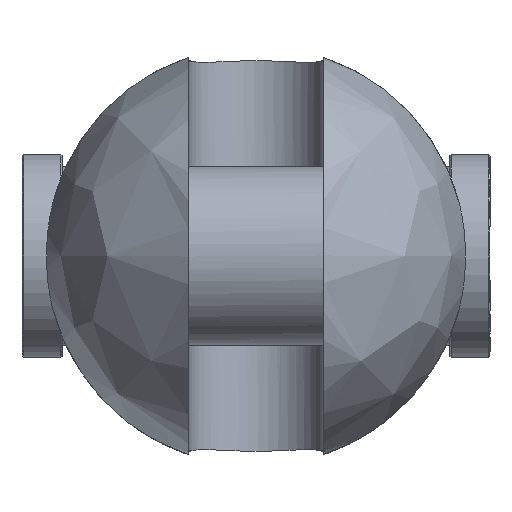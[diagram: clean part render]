
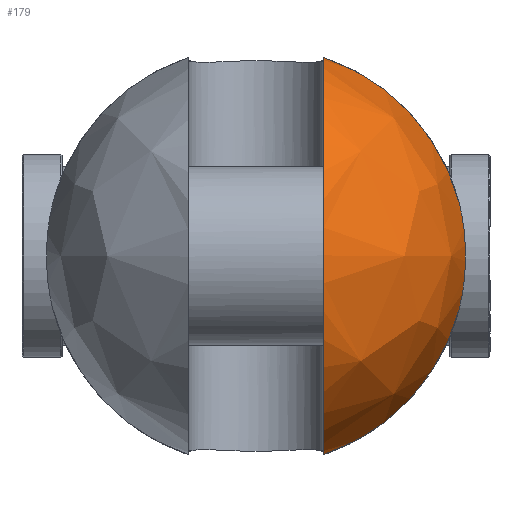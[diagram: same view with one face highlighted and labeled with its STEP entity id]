
A CAD part, left-side view. The second image highlights one B-rep face of the part: STEP entity #179.
In plain terms, the highlighted free-form (B-spline) face has degree [2, 2] with [9, 5] control points.
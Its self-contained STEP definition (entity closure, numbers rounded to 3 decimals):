
#179=ADVANCED_FACE('',(#320),#2412,.T.);
#320=FACE_OUTER_BOUND('',#481,.T.);
#481=EDGE_LOOP('',(#1192,#1193,#1194,#1195));
#1192=ORIENTED_EDGE('',*,*,#1572,.T.);
#1193=ORIENTED_EDGE('',*,*,#1600,.F.);
#1194=ORIENTED_EDGE('',*,*,#1612,.T.);
#1195=ORIENTED_EDGE('',*,*,#1592,.F.);
#1572=EDGE_CURVE('',#2244,#2243,#1979,.T.);
#1592=EDGE_CURVE('',#2244,#2256,#1989,.T.);
#1600=EDGE_CURVE('',#2263,#2243,#1990,.T.);
#1612=EDGE_CURVE('',#2263,#2256,#1786,.T.);
#1786=B_SPLINE_CURVE_WITH_KNOTS('',3,(#6118,#6119,#6120,#6121,#6122,#6123,
#6124,#6125,#6126,#6127,#6128,#6129,#6130,#6131),.UNSPECIFIED.,.F.,.F.,
(4,2,2,2,2,2,4),(0.,4.71,11.288,17.866,
24.445,31.023,35.733),.UNSPECIFIED.);
#1979=(
BOUNDED_CURVE()
B_SPLINE_CURVE(2,(#5862,#5863,#5864,#5865,#5866),.UNSPECIFIED.,.F.,.F.)
B_SPLINE_CURVE_WITH_KNOTS((3,2,3),(-202.139,-101.069,0.),
 .UNSPECIFIED.)
CURVE()
GEOMETRIC_REPRESENTATION_ITEM()
RATIONAL_B_SPLINE_CURVE((1.,0.707,1.,0.707,1.))
REPRESENTATION_ITEM('')
);
#1989=(
BOUNDED_CURVE()
B_SPLINE_CURVE(2,(#5988,#5989,#5990),.UNSPECIFIED.,.F.,.F.)
B_SPLINE_CURVE_WITH_KNOTS((3,3),(0.,67.328),.UNSPECIFIED.)
CURVE()
GEOMETRIC_REPRESENTATION_ITEM()
RATIONAL_B_SPLINE_CURVE((1.,0.88,1.))
REPRESENTATION_ITEM('')
);
#1990=(
BOUNDED_CURVE()
B_SPLINE_CURVE(2,(#6045,#6046,#6047),.UNSPECIFIED.,.F.,.F.)
B_SPLINE_CURVE_WITH_KNOTS((3,3),(0.,67.328),.UNSPECIFIED.)
CURVE()
GEOMETRIC_REPRESENTATION_ITEM()
RATIONAL_B_SPLINE_CURVE((1.,0.88,1.))
REPRESENTATION_ITEM('')
);
#2243=VERTEX_POINT('',#5746);
#2244=VERTEX_POINT('',#5747);
#2256=VERTEX_POINT('',#5759);
#2263=VERTEX_POINT('',#5766);
#2412=(
BOUNDED_SURFACE()
B_SPLINE_SURFACE(2,2,((#5460,#5461,#5462,#5463,#5464),(#5465,#5466,#5467,
#5468,#5469),(#5470,#5471,#5472,#5473,#5474),(#5475,#5476,#5477,#5478,#5479),
(#5480,#5481,#5482,#5483,#5484),(#5485,#5486,#5487,#5488,#5489),(#5490,
#5491,#5492,#5493,#5494),(#5495,#5496,#5497,#5498,#5499),(#5500,#5501,#5502,
#5503,#5504)),.UNSPECIFIED.,.T.,.F.,.F.)
B_SPLINE_SURFACE_WITH_KNOTS((3,2,2,2,3),(3,2,3),(0.,106.814,213.628,
320.442,427.257),(0.,106.814,213.628),
 .UNSPECIFIED.)
GEOMETRIC_REPRESENTATION_ITEM()
RATIONAL_B_SPLINE_SURFACE(((1.,0.707,1.,0.707,1.),
(0.707,0.5,0.707,0.5,0.707),(1.,0.707,
1.,0.707,1.),(0.707,0.5,0.707,0.5,0.707),
(1.,0.707,1.,0.707,1.),(0.707,0.5,0.707,
0.5,0.707),(1.,0.707,1.,0.707,1.),(0.707,
0.5,0.707,0.5,0.707),(1.,0.707,1.,0.707,
1.)))
REPRESENTATION_ITEM('')
SURFACE()
);
#5460=CARTESIAN_POINT('',(-97.5,0.,0.));
#5461=CARTESIAN_POINT('',(-97.5,68.,0.));
#5462=CARTESIAN_POINT('',(-29.5,68.,0.));
#5463=CARTESIAN_POINT('',(38.5,68.,0.));
#5464=CARTESIAN_POINT('',(38.5,0.,0.));
#5465=CARTESIAN_POINT('',(-97.5,0.,0.));
#5466=CARTESIAN_POINT('',(-97.5,68.,68.));
#5467=CARTESIAN_POINT('',(-29.5,68.,68.));
#5468=CARTESIAN_POINT('',(38.5,68.,68.));
#5469=CARTESIAN_POINT('',(38.5,0.,0.));
#5470=CARTESIAN_POINT('',(-97.5,0.,0.));
#5471=CARTESIAN_POINT('',(-97.5,0.,68.));
#5472=CARTESIAN_POINT('',(-29.5,0.,68.));
#5473=CARTESIAN_POINT('',(38.5,0.,68.));
#5474=CARTESIAN_POINT('',(38.5,0.,0.));
#5475=CARTESIAN_POINT('',(-97.5,0.,0.));
#5476=CARTESIAN_POINT('',(-97.5,-68.,68.));
#5477=CARTESIAN_POINT('',(-29.5,-68.,68.));
#5478=CARTESIAN_POINT('',(38.5,-68.,68.));
#5479=CARTESIAN_POINT('',(38.5,0.,0.));
#5480=CARTESIAN_POINT('',(-97.5,0.,0.));
#5481=CARTESIAN_POINT('',(-97.5,-68.,0.));
#5482=CARTESIAN_POINT('',(-29.5,-68.,0.));
#5483=CARTESIAN_POINT('',(38.5,-68.,0.));
#5484=CARTESIAN_POINT('',(38.5,0.,0.));
#5485=CARTESIAN_POINT('',(-97.5,0.,0.));
#5486=CARTESIAN_POINT('',(-97.5,-68.,-68.));
#5487=CARTESIAN_POINT('',(-29.5,-68.,-68.));
#5488=CARTESIAN_POINT('',(38.5,-68.,-68.));
#5489=CARTESIAN_POINT('',(38.5,0.,0.));
#5490=CARTESIAN_POINT('',(-97.5,0.,0.));
#5491=CARTESIAN_POINT('',(-97.5,0.,-68.));
#5492=CARTESIAN_POINT('',(-29.5,0.,-68.));
#5493=CARTESIAN_POINT('',(38.5,0.,-68.));
#5494=CARTESIAN_POINT('',(38.5,0.,0.));
#5495=CARTESIAN_POINT('',(-97.5,0.,0.));
#5496=CARTESIAN_POINT('',(-97.5,68.,-68.));
#5497=CARTESIAN_POINT('',(-29.5,68.,-68.));
#5498=CARTESIAN_POINT('',(38.5,68.,-68.));
#5499=CARTESIAN_POINT('',(38.5,0.,0.));
#5500=CARTESIAN_POINT('',(-97.5,0.,0.));
#5501=CARTESIAN_POINT('',(-97.5,68.,0.));
#5502=CARTESIAN_POINT('',(-29.5,68.,0.));
#5503=CARTESIAN_POINT('',(38.5,68.,0.));
#5504=CARTESIAN_POINT('',(38.5,0.,0.));
#5746=CARTESIAN_POINT('',(-29.5,-22.,-64.343));
#5747=CARTESIAN_POINT('',(-29.5,-22.,64.343));
#5759=CARTESIAN_POINT('',(-29.5,-65.865,16.904));
#5766=CARTESIAN_POINT('',(-29.5,-65.865,-16.904));
#5862=CARTESIAN_POINT('',(-29.5,-22.,64.343));
#5863=CARTESIAN_POINT('',(-93.843,-22.,64.343));
#5864=CARTESIAN_POINT('',(-93.843,-22.,0.));
#5865=CARTESIAN_POINT('',(-93.843,-22.,-64.343));
#5866=CARTESIAN_POINT('',(-29.5,-22.,-64.343));
#5988=CARTESIAN_POINT('',(-29.5,-22.,64.343));
#5989=CARTESIAN_POINT('',(-29.5,-56.739,52.465));
#5990=CARTESIAN_POINT('',(-29.5,-65.865,16.904));
#6045=CARTESIAN_POINT('',(-29.5,-65.865,-16.904));
#6046=CARTESIAN_POINT('',(-29.5,-56.739,-52.465));
#6047=CARTESIAN_POINT('',(-29.5,-22.,-64.343));
#6118=CARTESIAN_POINT('',(-29.5,-65.865,-16.904));
#6119=CARTESIAN_POINT('',(-30.268,-66.209,-15.564));
#6120=CARTESIAN_POINT('',(-30.953,-66.514,-14.155));
#6121=CARTESIAN_POINT('',(-32.357,-67.134,-10.668));
#6122=CARTESIAN_POINT('',(-32.982,-67.407,-8.542));
#6123=CARTESIAN_POINT('',(-33.803,-67.766,-4.256));
#6124=CARTESIAN_POINT('',(-34.,-67.851,-2.095));
#6125=CARTESIAN_POINT('',(-34.,-67.851,2.095));
#6126=CARTESIAN_POINT('',(-33.803,-67.766,4.256));
#6127=CARTESIAN_POINT('',(-32.982,-67.407,8.542));
#6128=CARTESIAN_POINT('',(-32.357,-67.134,10.668));
#6129=CARTESIAN_POINT('',(-30.953,-66.514,14.155));
#6130=CARTESIAN_POINT('',(-30.268,-66.209,15.564));
#6131=CARTESIAN_POINT('',(-29.5,-65.865,16.904));
